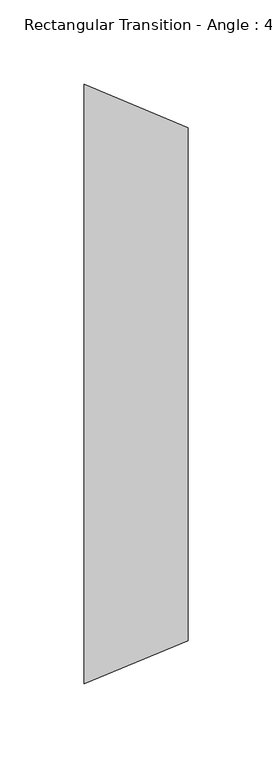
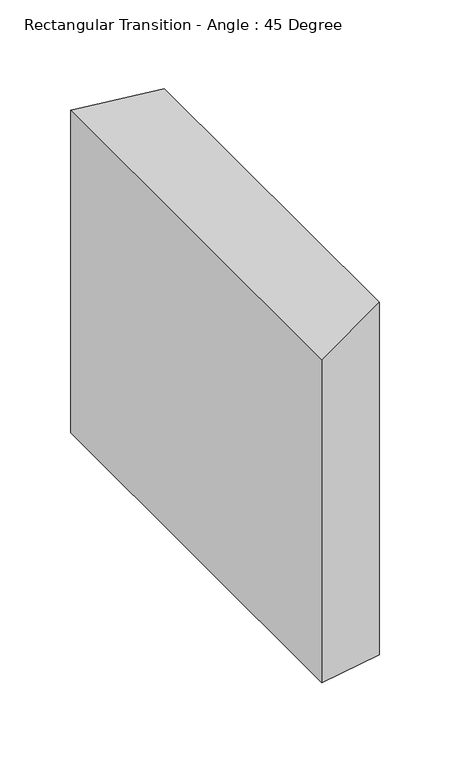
"""IFC4 building model written with IfcOpenShell, lengths in millimetres: duct fitting geometry, Rectangular Transition - Angle : 45 Degree."""

from ifc_helpers import new_model, si_unit, origin, place, context, project, spatial, faceted_brep, source, transform, mapped, element, save


def rectangular_transition_angle_45_degree_133559a0(model_context):
    return source(origin(), model_context, "Body", "Brep", [
        faceted_brep([(61.8034442, -152.575, 152.4), (61.8034442, -152.575, -152.4), (61.8034442, 152.225, -152.4), (61.8034442, 152.225, 152.4), (0.0, -178.0, 139.5), (0.0, 178.0, 139.5), (0.0, 178.0, -139.5), (0.0, -178.0, -139.5)], [[[0, 1, 2, 3]], [[4, 5, 6, 7]], [[4, 7, 1, 0]], [[7, 6, 2, 1]], [[6, 5, 3, 2]], [[5, 4, 0, 3]]]),
    ])


if __name__ == "__main__":
    model = new_model("IFC4")
    model_context = context("Model", 3, world=origin())
    ifc_project = project(units=[si_unit("LENGTHUNIT", "METRE", prefix="MILLI")], contexts=[model_context])
    site = spatial("IfcSite", under=ifc_project)
    building = spatial("IfcBuilding", under=site)
    placement = place(None, origin())
    rectangular_transition_angle_45_degree_shape = rectangular_transition_angle_45_degree_133559a0(model_context)
    element("IfcDuctFitting", 1, ObjectType="Rectangular Transition - Angle : 45 Degree", at=placement, inside=building, context=model_context, shape_type="MappedRepresentation", body=[
        mapped(rectangular_transition_angle_45_degree_shape, transform((0.0, 0.0, 0.0), x_axis=(1.0, 0.0, 0.0), y_axis=(0.0, 1.0, 0.0), z_axis=(0.0, 0.0, 1.0))),
    ])
    save(model, "model.ifc")
